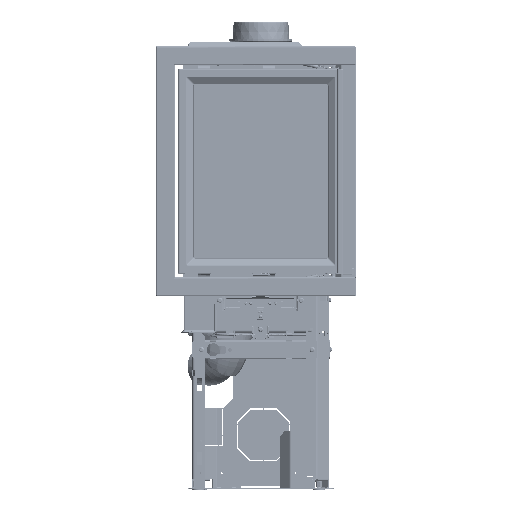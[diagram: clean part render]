
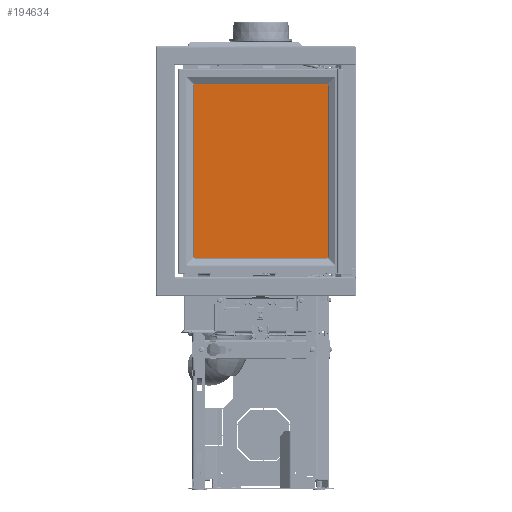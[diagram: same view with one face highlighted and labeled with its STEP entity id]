
A CAD part, left-side view. The second image highlights one B-rep face of the part: STEP entity #194634.
In plain terms, the highlighted planar face has unit normal (-1, 0, 0) as drawn and (0, -1, 0) by its records, which use the part's own axes.
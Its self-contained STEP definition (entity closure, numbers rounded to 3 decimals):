
#10043=CIRCLE('',#214678,2.5);
#10044=CIRCLE('',#214679,2.5);
#10045=CIRCLE('',#214680,2.5);
#10046=CIRCLE('',#214681,2.5);
#10047=CIRCLE('',#214682,2.5);
#39766=ORIENTED_EDGE('',*,*,#86988,.T.);
#39767=ORIENTED_EDGE('',*,*,#86989,.T.);
#39768=ORIENTED_EDGE('',*,*,#86990,.T.);
#39769=ORIENTED_EDGE('',*,*,#86991,.T.);
#39770=ORIENTED_EDGE('',*,*,#86992,.T.);
#39771=ORIENTED_EDGE('',*,*,#86993,.T.);
#39772=ORIENTED_EDGE('',*,*,#86994,.T.);
#39773=ORIENTED_EDGE('',*,*,#86995,.T.);
#39774=ORIENTED_EDGE('',*,*,#86996,.T.);
#86988=EDGE_CURVE('',#112127,#112128,#10043,.F.);
#86989=EDGE_CURVE('',#112128,#112129,#131286,.F.);
#86990=EDGE_CURVE('',#112129,#112130,#10044,.F.);
#86991=EDGE_CURVE('',#112130,#112131,#131287,.F.);
#86992=EDGE_CURVE('',#112131,#112132,#10045,.F.);
#86993=EDGE_CURVE('',#112132,#112133,#131288,.F.);
#86994=EDGE_CURVE('',#112133,#112134,#10046,.F.);
#86995=EDGE_CURVE('',#112134,#112127,#131289,.F.);
#86996=EDGE_CURVE('',#112135,#112135,#10047,.T.);
#112127=VERTEX_POINT('',#313018);
#112128=VERTEX_POINT('',#313019);
#112129=VERTEX_POINT('',#313021);
#112130=VERTEX_POINT('',#313023);
#112131=VERTEX_POINT('',#313025);
#112132=VERTEX_POINT('',#313027);
#112133=VERTEX_POINT('',#313029);
#112134=VERTEX_POINT('',#313031);
#112135=VERTEX_POINT('',#313034);
#131286=LINE('',#313020,#148124);
#131287=LINE('',#313024,#148125);
#131288=LINE('',#313028,#148126);
#131289=LINE('',#313032,#148127);
#148124=VECTOR('',#247563,1000.);
#148125=VECTOR('',#247566,1000.);
#148126=VECTOR('',#247569,1000.);
#148127=VECTOR('',#247572,1000.);
#162163=EDGE_LOOP('',(#39766,#39767,#39768,#39769,#39770,#39771,#39772,
#39773));
#162164=EDGE_LOOP('',(#39774));
#175946=FACE_BOUND('',#162163,.T.);
#175947=FACE_BOUND('',#162164,.T.);
#187818=PLANE('',#214677);
#194634=ADVANCED_FACE('',(#175946,#175947),#187818,.F.);
#214677=AXIS2_PLACEMENT_3D('',#313016,#247559,#247560);
#214678=AXIS2_PLACEMENT_3D('',#313017,#247561,#247562);
#214679=AXIS2_PLACEMENT_3D('',#313022,#247564,#247565);
#214680=AXIS2_PLACEMENT_3D('',#313026,#247567,#247568);
#214681=AXIS2_PLACEMENT_3D('',#313030,#247570,#247571);
#214682=AXIS2_PLACEMENT_3D('',#313033,#247573,#247574);
#247559=DIRECTION('',(0.,1.,0.));
#247560=DIRECTION('',(0.,0.,1.));
#247561=DIRECTION('',(0.,1.,0.));
#247562=DIRECTION('',(0.,0.,1.));
#247563=DIRECTION('',(-1.,0.,0.));
#247564=DIRECTION('',(0.,1.,0.));
#247565=DIRECTION('',(0.,0.,1.));
#247566=DIRECTION('',(0.,0.,-1.));
#247567=DIRECTION('',(0.,1.,0.));
#247568=DIRECTION('',(0.,0.,1.));
#247569=DIRECTION('',(1.,0.,0.));
#247570=DIRECTION('',(0.,1.,0.));
#247571=DIRECTION('',(0.,0.,1.));
#247572=DIRECTION('',(0.,0.,1.));
#247573=DIRECTION('',(0.,1.,0.));
#247574=DIRECTION('',(1.,0.,0.));
#313016=CARTESIAN_POINT('',(0.,0.,0.));
#313017=CARTESIAN_POINT('',(-183.5,0.,4.));
#313018=CARTESIAN_POINT('',(-186.,0.,4.));
#313019=CARTESIAN_POINT('',(-183.5,0.,1.5));
#313020=CARTESIAN_POINT('',(0.,0.,1.5));
#313021=CARTESIAN_POINT('',(183.5,0.,1.5));
#313022=CARTESIAN_POINT('',(183.5,0.,4.));
#313023=CARTESIAN_POINT('',(186.,0.,4.));
#313024=CARTESIAN_POINT('',(186.,0.,0.));
#313025=CARTESIAN_POINT('',(186.,0.,477.));
#313026=CARTESIAN_POINT('',(183.5,0.,477.));
#313027=CARTESIAN_POINT('',(183.5,0.,479.5));
#313028=CARTESIAN_POINT('',(0.,0.,479.5));
#313029=CARTESIAN_POINT('',(-183.5,0.,479.5));
#313030=CARTESIAN_POINT('',(-183.5,0.,477.));
#313031=CARTESIAN_POINT('',(-186.,0.,477.));
#313032=CARTESIAN_POINT('',(-186.,0.,0.));
#313033=CARTESIAN_POINT('',(180.,0.,7.5));
#313034=CARTESIAN_POINT('',(182.5,0.,7.5));
